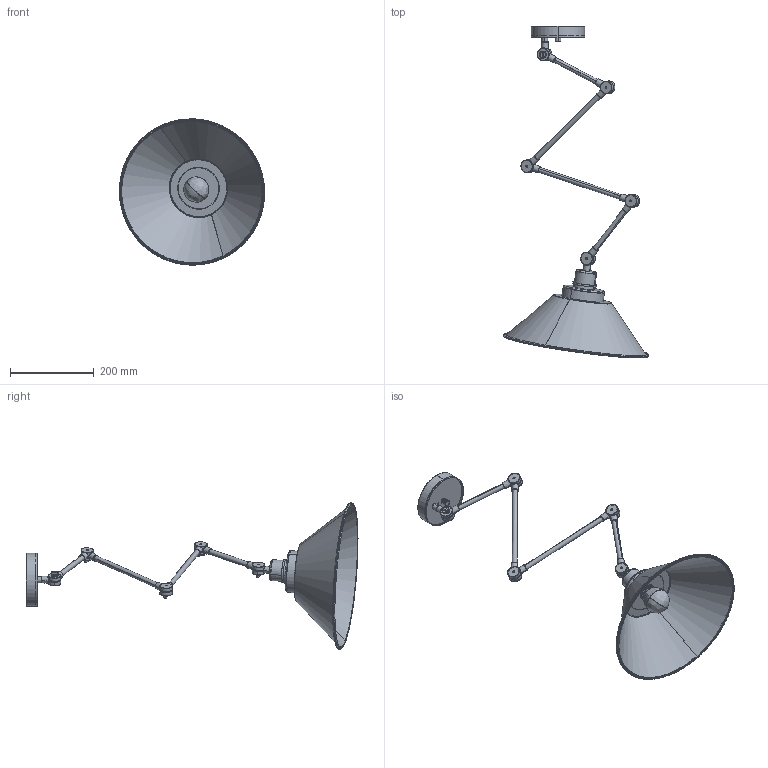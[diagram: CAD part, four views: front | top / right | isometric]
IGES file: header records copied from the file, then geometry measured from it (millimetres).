
Start section: SolidWorks IGES file using analytic representation for surfaces
Global section: file name: Z:\Modele 3D_WWW\_KOLEKCJE_WWW\PANTOGRAPH-9126\PANTOGRAPH-9126.IGS; native system: SolidWorks 2020; preprocessor: SolidWorks 2020; author: gabriela.tworek; date: 210314.195620; units: millimetre
Bounding box: 346.58 x 792.11 x 348.79 mm (x, y, z)
Surface area: 524570.5 mm2 (no closed solid volume)
Topology: 0 solids, 0 shells, 2019 faces, 21640 edges, 21620 vertices
Faces by surface type: bspline 1552, revolution 467
